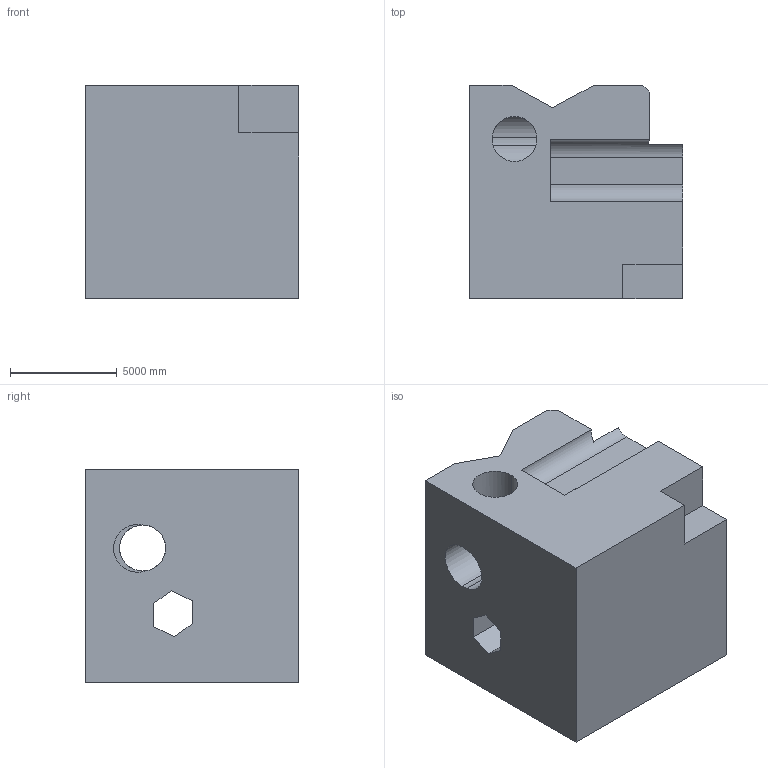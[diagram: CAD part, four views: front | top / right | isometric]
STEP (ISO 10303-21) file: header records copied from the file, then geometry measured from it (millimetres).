
FILE_DESCRIPTION (( 'STEP AP203' ), '1' );
FILE_NAME ('1913.STEP', '2022-08-23T09:25:05', ( 'user' ), ( '' ), 'SwSTEP 2.0', 'SolidWorks 2021', '' );
FILE_SCHEMA (( 'CONFIG_CONTROL_DESIGN' ));
Length unit declared in the file: centimetre
Products named in the file (1): 1913
Bounding box: 10000 x 10000 x 10000 mm (x, y, z)
Volume: 807708875060.2 mm3; surface area: 737434832.9 mm2
Topology: 1 solids, 1 shells, 39 faces, 117 edges, 78 vertices
Faces by surface type: plane 29, cylinder 10
Entity records: 1716 total; most frequent: CARTESIAN_POINT 578, ORIENTED_EDGE 234, DIRECTION 204, EDGE_CURVE 117, LINE 90, VECTOR 90, VERTEX_POINT 78, AXIS2_PLACEMENT_3D 57
